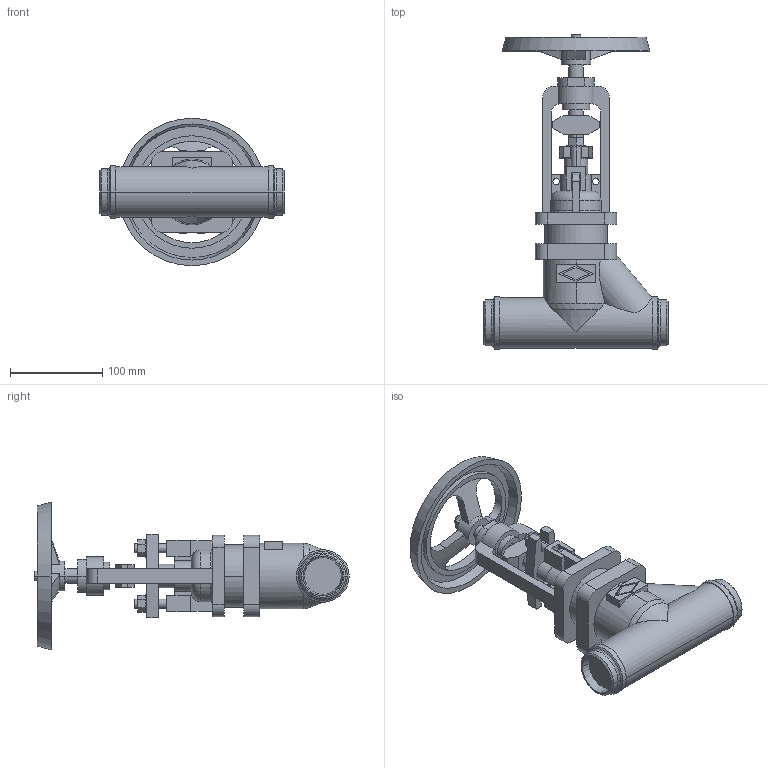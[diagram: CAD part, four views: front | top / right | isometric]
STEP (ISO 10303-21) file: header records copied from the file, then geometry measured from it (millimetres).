
FILE_DESCRIPTION(('OneSpaceDesigner STEP Export'),'2;1');
FILE_NAME('c000004312.stp','2010-05-06T 9:26:54',(''),(''),'OneSpace Designer STEP processor for AP214 (Solid Model)','OneSpace Modeling 15.50B 03-Nov-2007 (C) CoCreate Software GmbH','');
FILE_SCHEMA(('AUTOMOTIVE_DESIGN { 1 0 10303 214 1 1 1 1 }'));
Length unit declared in the file: millimetre
Products named in the file (1): 1
Bounding box: 200 x 340.9 x 160 mm (x, y, z)
Volume: 1391629.9 mm3; surface area: 181122.8 mm2
Topology: 1 solids, 1 shells, 285 faces, 742 edges, 484 vertices
Faces by surface type: plane 147, cylinder 92, cone 32, torus 14
Entity records: 11287 total; most frequent: CARTESIAN_POINT 2399, ORIENTED_EDGE 1484, DIRECTION 1234, EDGE_CURVE 742, VERTEX_POINT 484, VECTOR 420, LINE 420, AXIS2_PLACEMENT_3D 407
